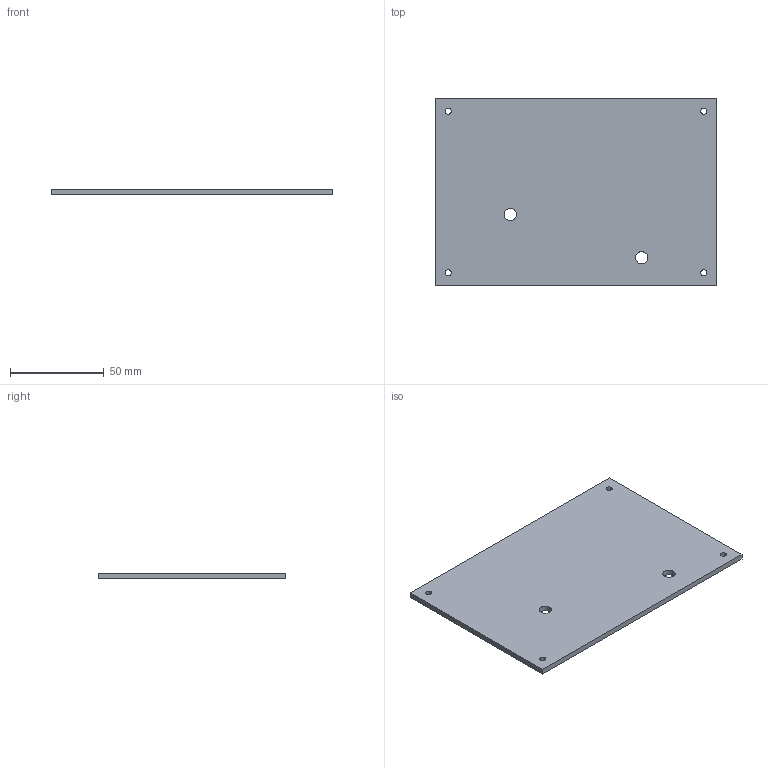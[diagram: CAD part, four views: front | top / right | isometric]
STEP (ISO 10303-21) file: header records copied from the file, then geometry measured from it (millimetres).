
FILE_DESCRIPTION(('Open CASCADE Model'),'2;1');
FILE_NAME('Open CASCADE Shape Model','2026-10-05T13:12:06',('Author'),( 'Open CASCADE'),'Open CASCADE STEP processor 7.8','Open CASCADE 7.8' ,'Unknown');
FILE_SCHEMA(('AUTOMOTIVE_DESIGN { 1 0 10303 214 1 1 1 1 }'));
Length unit declared in the file: millimetre
Products named in the file (1): Open CASCADE STEP translator 7.8 2
Bounding box: 150 x 100 x 3 mm (x, y, z)
Volume: 44704.4 mm3; surface area: 31546.1 mm2
Topology: 1 solids, 1 shells, 12 faces, 30 edges, 20 vertices
Faces by surface type: plane 6, cylinder 6
Full cylindrical faces by diameter (mm): 3.2 x4, 6.5 x2
Entity records: 790 total; most frequent: DIRECTION 128, CARTESIAN_POINT 123, LINE 66, VECTOR 66, ORIENTED_EDGE 60, PCURVE 60, DEFINITIONAL_REPRESENTATION 60, EDGE_CURVE 30
